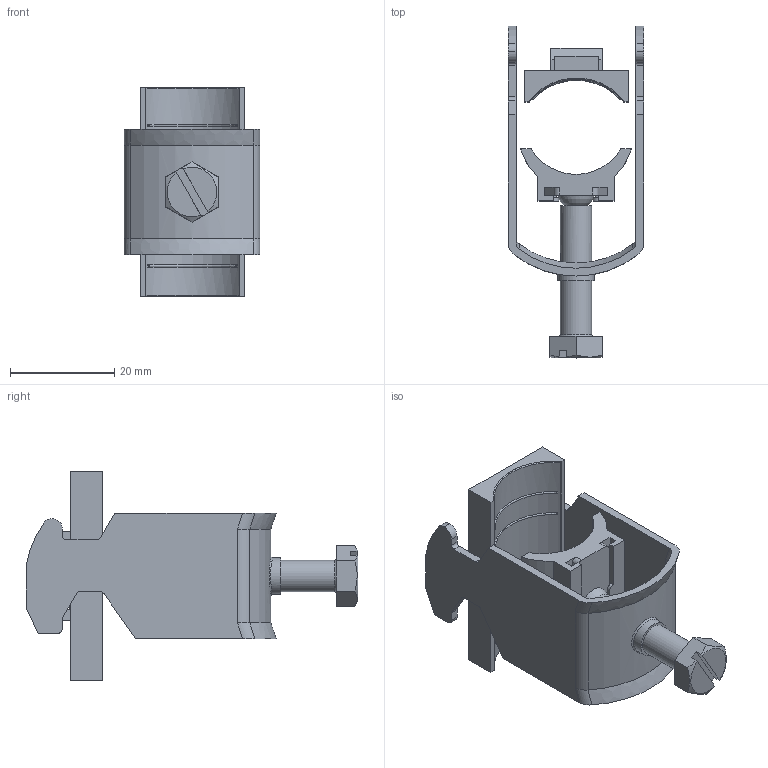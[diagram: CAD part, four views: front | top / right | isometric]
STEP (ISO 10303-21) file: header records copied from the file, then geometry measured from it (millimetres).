
FILE_DESCRIPTION(('STEP AP214'), '1');
FILE_NAME('Çàæèì êàáåëüíûé, 18-22', '2025-12-03T09:35:21', (''), (''), 'ASCON STEP Converter 1.6', 'ASCON Math Kernel', '');
FILE_SCHEMA(('AUTOMOTIVE_DESIGN { 1 0 10303 214 3 1 1}'));
Length unit declared in the file: millimetre
Bounding box: 26 x 63.7 x 40 mm (x, y, z)
Volume: 8798.1 mm3; surface area: 10755.5 mm2
Topology: 2 solids, 2 shells, 171 faces, 462 edges, 304 vertices
Faces by surface type: plane 103, cylinder 42, bspline 13, torus 7, cone 6
Full cylindrical faces by diameter (mm): 6 x2, 7 x1
Entity records: 8396 total; most frequent: CARTESIAN_POINT 2695, ORIENTED_EDGE 910, DIRECTION 854, EDGE_CURVE 455, LINE 308, VECTOR 308, VERTEX_POINT 303, AXIS2_PLACEMENT_3D 273
